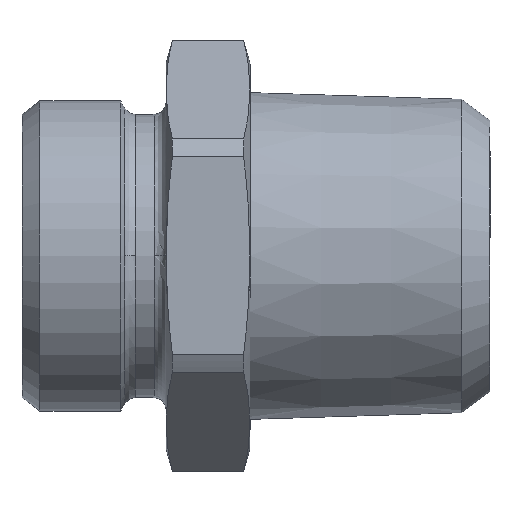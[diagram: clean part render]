
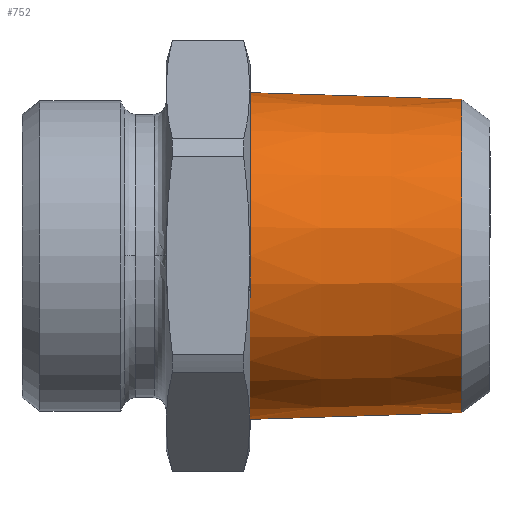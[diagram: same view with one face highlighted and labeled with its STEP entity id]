
A CAD part, top view. The second image highlights one B-rep face of the part: STEP entity #752.
In plain terms, the highlighted conical face has half-angle 1.79 degrees and reference radius 13.336 mm.
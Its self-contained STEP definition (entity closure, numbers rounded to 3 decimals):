
#711=CARTESIAN_POINT('',(0.,0.,-12.332));
#712=DIRECTION('',(0.,0.,1.0));
#713=DIRECTION('',(0.0,-1.0,0.0));
#714=AXIS2_PLACEMENT_3D('',#711,#712,#713);
#715=CONICAL_SURFACE('',#714,13.336,1.79);
#716=CARTESIAN_POINT('',(0.,-13.06,-21.165));
#717=VERTEX_POINT('',#716);
#718=CARTESIAN_POINT('',(0.,-13.612,-3.5));
#719=VERTEX_POINT('',#718);
#720=CARTESIAN_POINT('',(0.,-13.06,-21.165));
#721=DIRECTION('',(0.,-0.031,1.));
#722=VECTOR('',#721,17.673);
#723=LINE('',#720,#722);
#724=EDGE_CURVE('',#717,#719,#723,.T.);
#725=ORIENTED_EDGE('',*,*,#724,.F.);
#726=CARTESIAN_POINT('',(0.,13.06,-21.165));
#727=VERTEX_POINT('',#726);
#728=CARTESIAN_POINT('',(0.,0.,-21.165));
#729=DIRECTION('',(0.0,0.0,1.0));
#730=DIRECTION('',(0.0,-1.0,0.0));
#731=AXIS2_PLACEMENT_3D('',#728,#729,#730);
#732=CIRCLE('',#731,13.06);
#733=EDGE_CURVE('',#717,#727,#732,.T.);
#734=ORIENTED_EDGE('',*,*,#733,.T.);
#735=CARTESIAN_POINT('',(0.,13.612,-3.5));
#736=VERTEX_POINT('',#735);
#737=CARTESIAN_POINT('',(0.,13.612,-3.5));
#738=DIRECTION('',(0.,-0.031,-1.));
#739=VECTOR('',#738,17.673);
#740=LINE('',#737,#739);
#741=EDGE_CURVE('',#736,#727,#740,.T.);
#742=ORIENTED_EDGE('',*,*,#741,.F.);
#743=CARTESIAN_POINT('',(0.,0.,-3.5));
#744=DIRECTION('',(0.0,0.0,1.0));
#745=DIRECTION('',(0.0,-1.0,0.0));
#746=AXIS2_PLACEMENT_3D('',#743,#744,#745);
#747=CIRCLE('',#746,13.612);
#748=EDGE_CURVE('',#719,#736,#747,.T.);
#749=ORIENTED_EDGE('',*,*,#748,.F.);
#750=EDGE_LOOP('',(#725,#734,#742,#749));
#751=FACE_OUTER_BOUND('',#750,.T.);
#752=ADVANCED_FACE('',(#751),#715,.T.);
